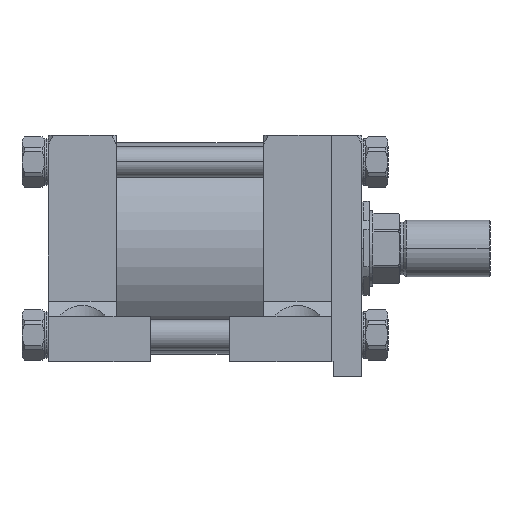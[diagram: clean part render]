
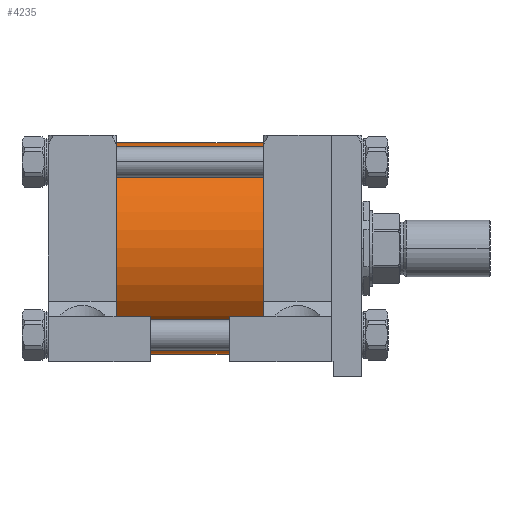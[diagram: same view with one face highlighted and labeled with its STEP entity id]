
A CAD part, front view. The second image highlights one B-rep face of the part: STEP entity #4235.
In plain terms, the highlighted cylindrical face has radius 88.9 mm (diameter 177.8 mm), a partial arc.
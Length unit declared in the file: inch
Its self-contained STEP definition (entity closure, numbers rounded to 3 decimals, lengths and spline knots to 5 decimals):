
#2406 = CARTESIAN_POINT ( 'NONE',  ( -9.625, 0., -3.5 ) ) ;
#4235 = ADVANCED_FACE ( 'NONE', ( #6181 ), #25306, .T. ) ;
#5839 = AXIS2_PLACEMENT_3D ( 'NONE', #16152, #15260, #59057 ) ;
#6181 = FACE_OUTER_BOUND ( 'NONE', #48458, .T. ) ;
#6546 = ORIENTED_EDGE ( 'NONE', *, *, #49513, .T. ) ;
#7064 = CIRCLE ( 'NONE', #10075, 3.5 ) ;
#7106 = DIRECTION ( 'NONE',  ( 1., 0., 0. ) ) ;
#7665 = CARTESIAN_POINT ( 'NONE',  ( -9.625, 0., -3.5 ) ) ;
#10075 = AXIS2_PLACEMENT_3D ( 'NONE', #50002, #7106, #29719 ) ;
#12434 = CARTESIAN_POINT ( 'NONE',  ( -4.25, 0., 3.5 ) ) ;
#14283 = VERTEX_POINT ( 'NONE', #38024 ) ;
#15260 = DIRECTION ( 'NONE',  ( 1., 0., 0. ) ) ;
#15944 = DIRECTION ( 'NONE',  ( 0., 1., 0. ) ) ;
#16152 = CARTESIAN_POINT ( 'NONE',  ( -9.625, 0., 0. ) ) ;
#18180 = ORIENTED_EDGE ( 'NONE', *, *, #25393, .F. ) ;
#20980 = CARTESIAN_POINT ( 'NONE',  ( -4.25, 0., 0. ) ) ;
#21209 = EDGE_CURVE ( 'NONE', #14283, #60215, #7064, .T. ) ;
#21543 = LINE ( 'NONE', #36530, #23777 ) ;
#22152 = DIRECTION ( 'NONE',  ( 1., 0., 0. ) ) ;
#23777 = VECTOR ( 'NONE', #22152, 39.37008 ) ;
#25306 = CYLINDRICAL_SURFACE ( 'NONE', #5839, 3.5 ) ;
#25393 = EDGE_CURVE ( 'NONE', #58111, #32844, #43623, .T. ) ;
#27886 = CARTESIAN_POINT ( 'NONE',  ( -4.25, 0., -3.5 ) ) ;
#29719 = DIRECTION ( 'NONE',  ( 0., 1., 0. ) ) ;
#31572 = DIRECTION ( 'NONE',  ( 1., 0., 0. ) ) ;
#32844 = VERTEX_POINT ( 'NONE', #27886 ) ;
#36530 = CARTESIAN_POINT ( 'NONE',  ( -9.625, 0., 3.5 ) ) ;
#38024 = CARTESIAN_POINT ( 'NONE',  ( -9.625, 0., 3.5 ) ) ;
#40620 = ORIENTED_EDGE ( 'NONE', *, *, #21209, .T. ) ;
#43623 = CIRCLE ( 'NONE', #59583, 3.5 ) ;
#45030 = LINE ( 'NONE', #2406, #53625 ) ;
#48458 = EDGE_LOOP ( 'NONE', ( #56340, #40620, #6546, #18180 ) ) ;
#49513 = EDGE_CURVE ( 'NONE', #60215, #32844, #45030, .T. ) ;
#50002 = CARTESIAN_POINT ( 'NONE',  ( -9.625, 0., 0. ) ) ;
#53625 = VECTOR ( 'NONE', #31572, 39.37008 ) ;
#53897 = DIRECTION ( 'NONE',  ( 1., 0., 0. ) ) ;
#56340 = ORIENTED_EDGE ( 'NONE', *, *, #59989, .F. ) ;
#58111 = VERTEX_POINT ( 'NONE', #12434 ) ;
#59057 = DIRECTION ( 'NONE',  ( 0., 0., -1. ) ) ;
#59583 = AXIS2_PLACEMENT_3D ( 'NONE', #20980, #53897, #15944 ) ;
#59989 = EDGE_CURVE ( 'NONE', #14283, #58111, #21543, .T. ) ;
#60215 = VERTEX_POINT ( 'NONE', #7665 ) ;
